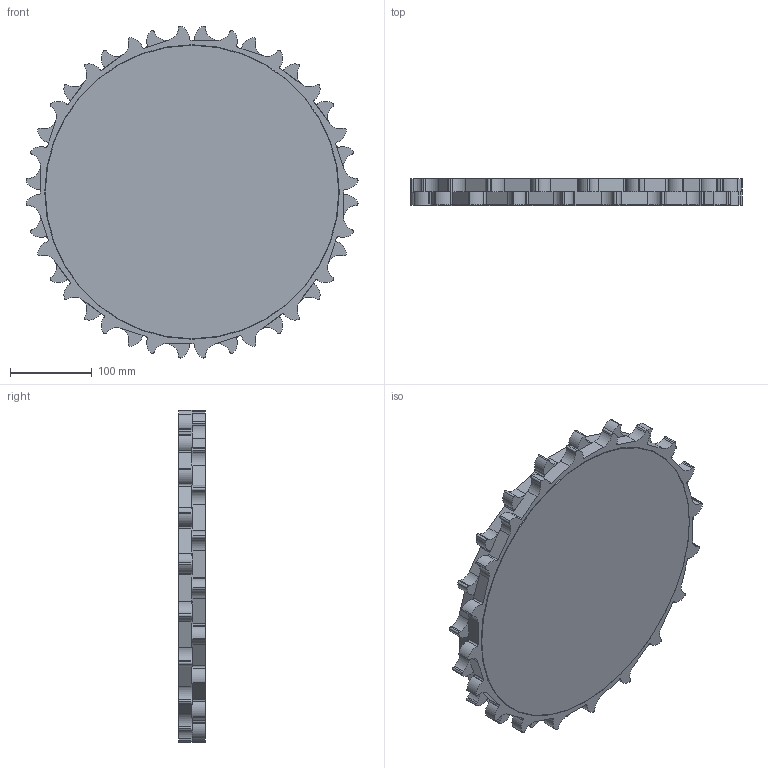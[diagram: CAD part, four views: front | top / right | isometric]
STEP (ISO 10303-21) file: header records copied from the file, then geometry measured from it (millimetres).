
FILE_DESCRIPTION((''),'2;1');
FILE_NAME('73Z20','2011-12-27T',('mth'),(''),'PRO/ENGINEER BY PARAMETRIC TECHNOLOGY CORPORATION, 2010280','PRO/ENGINEER BY PARAMETRIC TECHNOLOGY CORPORATION, 2010280','');
FILE_SCHEMA(('CONFIG_CONTROL_DESIGN','SHAPE_APPEARANCE_LAYERS_GROUPS'));
Length unit declared in the file: millimetre
Products named in the file (1): 73Z20
Bounding box: 406 x 33 x 406 mm (x, y, z)
Volume: 3741876.7 mm3; surface area: 288865.9 mm2
Topology: 1 solids, 1 shells, 621 faces, 1774 edges, 1175 vertices
Faces by surface type: plane 455, cylinder 160, torus 4, cone 2
Entity records: 20158 total; most frequent: CARTESIAN_POINT 3568, ORIENTED_EDGE 3544, DIRECTION 3348, EDGE_CURVE 1772, VECTOR 1438, LINE 1438, VERTEX_POINT 1175, AXIS2_PLACEMENT_3D 955
